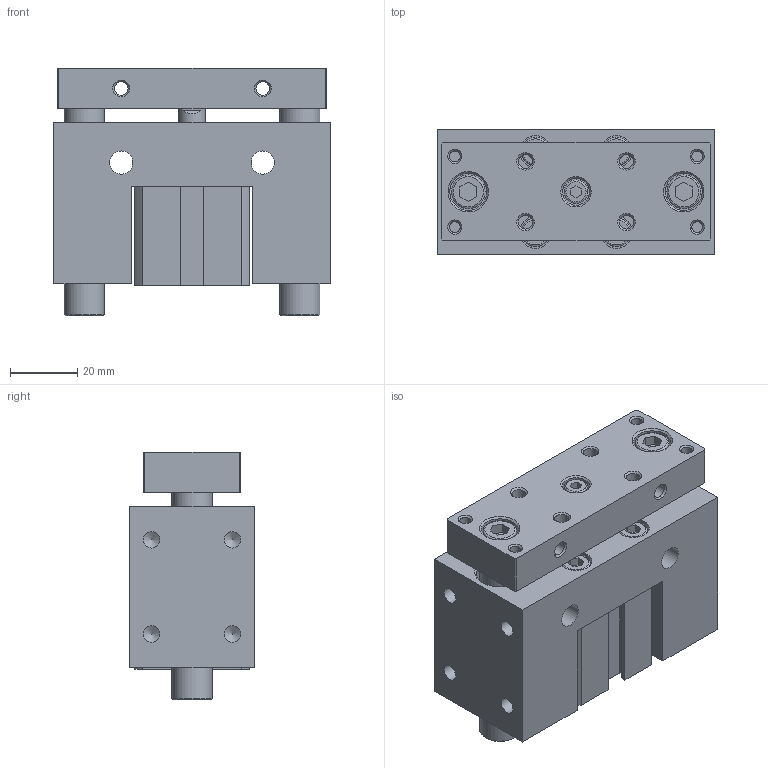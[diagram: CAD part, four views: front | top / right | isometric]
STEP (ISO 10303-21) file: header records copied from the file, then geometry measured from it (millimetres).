
FILE_DESCRIPTION((''),'2;1');
FILE_NAME('I:\3D電子目錄\氣缸\JCB\JCB\JCB20\JCB20x10.stp','2007-08-21T18:15:54',('Administrator'),(''),'Autodesk Inventor 11','Autodesk Inventor 11','');
FILE_SCHEMA(('AUTOMOTIVE_DESIGN { 1 0 10303 214 1 1 1 1 }'));
Length unit declared in the file: millimetre
Products named in the file (1): JCB20
Bounding box: 82 x 37 x 73.5 mm (x, y, z)
Volume: 152356.1 mm3; surface area: 51241.8 mm2
Topology: 5 solids, 5 shells, 293 faces, 643 edges, 415 vertices
Faces by surface type: plane 150, bspline 53, cylinder 45, cone 37, torus 8
Full cylindrical faces by diameter (mm): 1.5 x2, 4.3 x4, 4.917 x4, 7 x9, 8 x1, 8.5 x4, 9 x1, 10 x2, 12 x2, 13 x2, 14 x2, 22 x4, 23.2 x2
Entity records: 7875 total; most frequent: CARTESIAN_POINT 1985, DIRECTION 1184, ORIENTED_EDGE 992, EDGE_LOOP 504, EDGE_CURVE 496, AXIS2_PLACEMENT_3D 447, VERTEX_POINT 394, FACE_OUTER_BOUND 293
